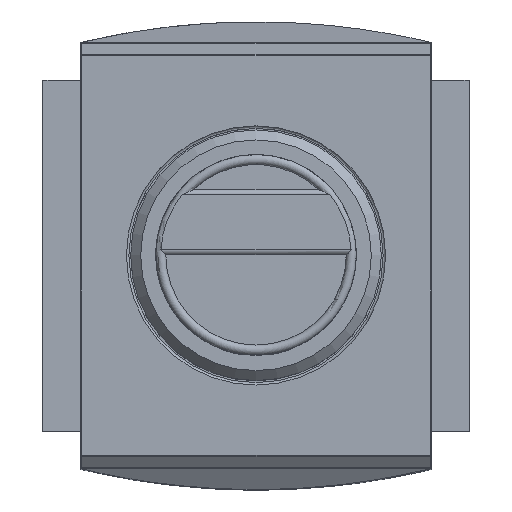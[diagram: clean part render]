
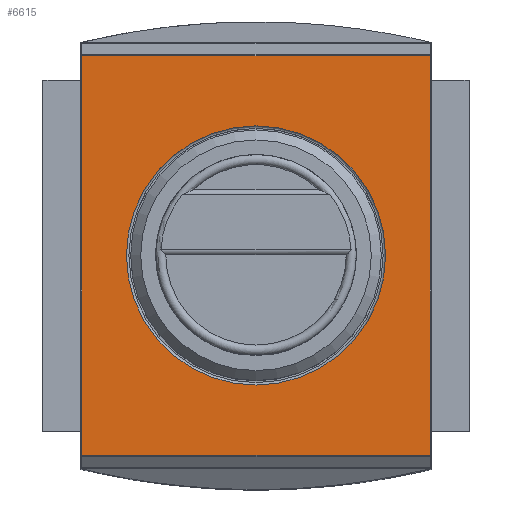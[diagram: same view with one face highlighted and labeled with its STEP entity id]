
A CAD part, top view. The second image highlights one B-rep face of the part: STEP entity #6615.
In plain terms, the highlighted planar face has unit normal (0, 0, 1).
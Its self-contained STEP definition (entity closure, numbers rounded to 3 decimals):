
#6046=CARTESIAN_POINT('',(-25.85,0.0,58.));
#6047=VERTEX_POINT('',#6046);
#6048=CARTESIAN_POINT('',(0.0,0.0,58.));
#6049=DIRECTION('',(0.0,0.0,-1.0));
#6050=DIRECTION('',(1.0,0.0,0.0));
#6051=AXIS2_PLACEMENT_3D('',#6048,#6049,#6050);
#6052=CIRCLE('',#6051,25.85);
#6053=EDGE_CURVE('',#6047,#6047,#6052,.T.);
#6393=CARTESIAN_POINT('',(-34.8,39.812,58.));
#6394=VERTEX_POINT('',#6393);
#6402=CARTESIAN_POINT('',(34.8,39.812,58.));
#6403=VERTEX_POINT('',#6402);
#6404=CARTESIAN_POINT('',(-34.8,39.812,58.));
#6405=DIRECTION('',(1.0,0.0,0.0));
#6406=VECTOR('',#6405,69.6);
#6407=LINE('',#6404,#6406);
#6408=EDGE_CURVE('',#6394,#6403,#6407,.T.);
#6442=CARTESIAN_POINT('',(34.8,-39.812,58.));
#6443=VERTEX_POINT('',#6442);
#6444=CARTESIAN_POINT('',(34.8,39.812,58.));
#6445=DIRECTION('',(0.0,-1.0,0.0));
#6446=VECTOR('',#6445,79.624);
#6447=LINE('',#6444,#6446);
#6448=EDGE_CURVE('',#6403,#6443,#6447,.T.);
#6480=CARTESIAN_POINT('',(-34.8,-39.812,58.));
#6481=VERTEX_POINT('',#6480);
#6482=CARTESIAN_POINT('',(34.8,-39.812,58.));
#6483=DIRECTION('',(-1.0,0.0,0.0));
#6484=VECTOR('',#6483,69.6);
#6485=LINE('',#6482,#6484);
#6486=EDGE_CURVE('',#6443,#6481,#6485,.T.);
#6528=CARTESIAN_POINT('',(-34.8,-39.812,58.));
#6529=DIRECTION('',(0.0,1.0,0.0));
#6530=VECTOR('',#6529,79.624);
#6531=LINE('',#6528,#6530);
#6532=EDGE_CURVE('',#6481,#6394,#6531,.T.);
#6601=CARTESIAN_POINT('',(0.0,0.0,58.));
#6602=DIRECTION('',(0.0,0.0,1.0));
#6603=DIRECTION('',(1.0,0.0,0.0));
#6604=AXIS2_PLACEMENT_3D('',#6601,#6602,#6603);
#6605=PLANE('',#6604);
#6606=ORIENTED_EDGE('',*,*,#6408,.F.);
#6607=ORIENTED_EDGE('',*,*,#6532,.F.);
#6608=ORIENTED_EDGE('',*,*,#6486,.F.);
#6609=ORIENTED_EDGE('',*,*,#6448,.F.);
#6610=EDGE_LOOP('',(#6606,#6607,#6608,#6609));
#6611=FACE_OUTER_BOUND('',#6610,.T.);
#6612=ORIENTED_EDGE('',*,*,#6053,.T.);
#6613=EDGE_LOOP('',(#6612));
#6614=FACE_BOUND('',#6613,.T.);
#6615=ADVANCED_FACE('',(#6611,#6614),#6605,.T.);
